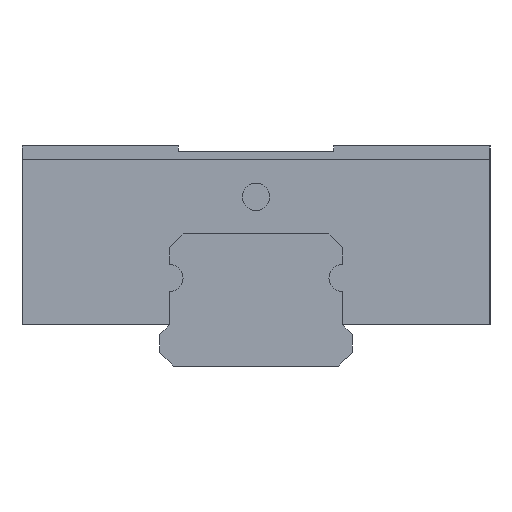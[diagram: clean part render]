
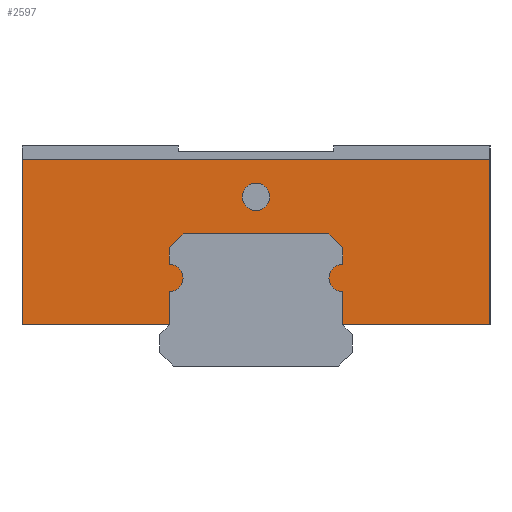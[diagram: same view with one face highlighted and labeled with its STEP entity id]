
A CAD part, left-side view. The second image highlights one B-rep face of the part: STEP entity #2597.
In plain terms, the highlighted planar face has unit normal (-1, 0, 0).
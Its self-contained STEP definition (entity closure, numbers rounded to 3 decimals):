
#1813=CARTESIAN_POINT('',(26.098,0.5,6.15));
#1814=VERTEX_POINT('',#1813);
#1815=CARTESIAN_POINT('',(26.098,0.0,6.15));
#1816=DIRECTION('',(1.0,0.0,0.0));
#1817=DIRECTION('',(0.0,-1.0,0.0));
#1818=AXIS2_PLACEMENT_3D('',#1815,#1816,#1817);
#1819=CIRCLE('',#1818,0.5);
#1820=EDGE_CURVE('',#1814,#1814,#1819,.T.);
#2086=CARTESIAN_POINT('',(26.098,8.5,7.5));
#2087=VERTEX_POINT('',#2086);
#2094=CARTESIAN_POINT('',(26.098,-8.5,7.5));
#2095=VERTEX_POINT('',#2094);
#2096=CARTESIAN_POINT('',(26.098,-8.5,7.5));
#2097=DIRECTION('',(0.0,1.0,0.0));
#2098=VECTOR('',#2097,17.0);
#2099=LINE('',#2096,#2098);
#2100=EDGE_CURVE('',#2095,#2087,#2099,.T.);
#2155=CARTESIAN_POINT('',(26.098,8.5,1.5));
#2156=VERTEX_POINT('',#2155);
#2163=CARTESIAN_POINT('',(26.098,8.5,7.5));
#2164=DIRECTION('',(0.0,0.0,-1.0));
#2165=VECTOR('',#2164,6.0);
#2166=LINE('',#2163,#2165);
#2167=EDGE_CURVE('',#2087,#2156,#2166,.T.);
#2190=CARTESIAN_POINT('',(26.098,3.15,1.5));
#2191=VERTEX_POINT('',#2190);
#2198=CARTESIAN_POINT('',(26.098,8.5,1.5));
#2199=DIRECTION('',(0.0,-1.0,0.0));
#2200=VECTOR('',#2199,5.35);
#2201=LINE('',#2198,#2200);
#2202=EDGE_CURVE('',#2156,#2191,#2201,.T.);
#2221=CARTESIAN_POINT('',(26.098,3.15,2.7));
#2222=VERTEX_POINT('',#2221);
#2229=CARTESIAN_POINT('',(26.098,3.15,1.5));
#2230=DIRECTION('',(0.0,0.0,1.0));
#2231=VECTOR('',#2230,1.2);
#2232=LINE('',#2229,#2231);
#2233=EDGE_CURVE('',#2191,#2222,#2232,.T.);
#2253=CARTESIAN_POINT('',(26.098,3.15,3.7));
#2254=VERTEX_POINT('',#2253);
#2261=CARTESIAN_POINT('',(26.098,3.15,3.2));
#2262=DIRECTION('',(-1.0,0.0,0.0));
#2263=DIRECTION('',(0.0,0.0,-1.0));
#2264=AXIS2_PLACEMENT_3D('',#2261,#2262,#2263);
#2265=CIRCLE('',#2264,0.5);
#2266=EDGE_CURVE('',#2222,#2254,#2265,.T.);
#2285=CARTESIAN_POINT('',(26.098,3.15,4.3));
#2286=VERTEX_POINT('',#2285);
#2293=CARTESIAN_POINT('',(26.098,3.15,3.7));
#2294=DIRECTION('',(0.0,0.0,1.0));
#2295=VECTOR('',#2294,0.6);
#2296=LINE('',#2293,#2295);
#2297=EDGE_CURVE('',#2254,#2286,#2296,.T.);
#2316=CARTESIAN_POINT('',(26.098,2.65,4.8));
#2317=VERTEX_POINT('',#2316);
#2324=CARTESIAN_POINT('',(26.098,3.15,4.3));
#2325=DIRECTION('',(0.0,-0.707,0.707));
#2326=VECTOR('',#2325,0.707);
#2327=LINE('',#2324,#2326);
#2328=EDGE_CURVE('',#2286,#2317,#2327,.T.);
#2347=CARTESIAN_POINT('',(26.098,-2.65,4.8));
#2348=VERTEX_POINT('',#2347);
#2355=CARTESIAN_POINT('',(26.098,2.65,4.8));
#2356=DIRECTION('',(0.0,-1.0,0.0));
#2357=VECTOR('',#2356,5.3);
#2358=LINE('',#2355,#2357);
#2359=EDGE_CURVE('',#2317,#2348,#2358,.T.);
#2378=CARTESIAN_POINT('',(26.098,-3.15,4.3));
#2379=VERTEX_POINT('',#2378);
#2386=CARTESIAN_POINT('',(26.098,-2.65,4.8));
#2387=DIRECTION('',(0.0,-0.707,-0.707));
#2388=VECTOR('',#2387,0.707);
#2389=LINE('',#2386,#2388);
#2390=EDGE_CURVE('',#2348,#2379,#2389,.T.);
#2409=CARTESIAN_POINT('',(26.098,-3.15,3.7));
#2410=VERTEX_POINT('',#2409);
#2417=CARTESIAN_POINT('',(26.098,-3.15,4.3));
#2418=DIRECTION('',(0.0,0.0,-1.0));
#2419=VECTOR('',#2418,0.6);
#2420=LINE('',#2417,#2419);
#2421=EDGE_CURVE('',#2379,#2410,#2420,.T.);
#2441=CARTESIAN_POINT('',(26.098,-3.15,2.7));
#2442=VERTEX_POINT('',#2441);
#2449=CARTESIAN_POINT('',(26.098,-3.15,3.2));
#2450=DIRECTION('',(-1.0,0.0,0.0));
#2451=DIRECTION('',(0.0,0.0,1.0));
#2452=AXIS2_PLACEMENT_3D('',#2449,#2450,#2451);
#2453=CIRCLE('',#2452,0.5);
#2454=EDGE_CURVE('',#2410,#2442,#2453,.T.);
#2473=CARTESIAN_POINT('',(26.098,-3.15,1.5));
#2474=VERTEX_POINT('',#2473);
#2481=CARTESIAN_POINT('',(26.098,-3.15,2.7));
#2482=DIRECTION('',(0.0,0.0,-1.0));
#2483=VECTOR('',#2482,1.2);
#2484=LINE('',#2481,#2483);
#2485=EDGE_CURVE('',#2442,#2474,#2484,.T.);
#2504=CARTESIAN_POINT('',(26.098,-8.5,1.5));
#2505=VERTEX_POINT('',#2504);
#2512=CARTESIAN_POINT('',(26.098,-3.15,1.5));
#2513=DIRECTION('',(0.0,-1.0,0.0));
#2514=VECTOR('',#2513,5.35);
#2515=LINE('',#2512,#2514);
#2516=EDGE_CURVE('',#2474,#2505,#2515,.T.);
#2538=CARTESIAN_POINT('',(26.098,-8.5,1.5));
#2539=DIRECTION('',(0.0,0.0,1.0));
#2540=VECTOR('',#2539,6.0);
#2541=LINE('',#2538,#2540);
#2542=EDGE_CURVE('',#2505,#2095,#2541,.T.);
#2573=CARTESIAN_POINT('',(26.098,0.,4.69));
#2574=DIRECTION('',(1.0,0.0,0.0));
#2575=DIRECTION('',(0.0,0.0,-1.0));
#2576=AXIS2_PLACEMENT_3D('',#2573,#2574,#2575);
#2577=PLANE('',#2576);
#2578=ORIENTED_EDGE('',*,*,#2542,.T.);
#2579=ORIENTED_EDGE('',*,*,#2100,.T.);
#2580=ORIENTED_EDGE('',*,*,#2167,.T.);
#2581=ORIENTED_EDGE('',*,*,#2202,.T.);
#2582=ORIENTED_EDGE('',*,*,#2233,.T.);
#2583=ORIENTED_EDGE('',*,*,#2266,.T.);
#2584=ORIENTED_EDGE('',*,*,#2297,.T.);
#2585=ORIENTED_EDGE('',*,*,#2328,.T.);
#2586=ORIENTED_EDGE('',*,*,#2359,.T.);
#2587=ORIENTED_EDGE('',*,*,#2390,.T.);
#2588=ORIENTED_EDGE('',*,*,#2421,.T.);
#2589=ORIENTED_EDGE('',*,*,#2454,.T.);
#2590=ORIENTED_EDGE('',*,*,#2485,.T.);
#2591=ORIENTED_EDGE('',*,*,#2516,.T.);
#2592=EDGE_LOOP('',(#2578,#2579,#2580,#2581,#2582,#2583,#2584,#2585,#2586,#2587,#2588,#2589,#2590,#2591));
#2593=FACE_OUTER_BOUND('',#2592,.T.);
#2594=ORIENTED_EDGE('',*,*,#1820,.T.);
#2595=EDGE_LOOP('',(#2594));
#2596=FACE_BOUND('',#2595,.T.);
#2597=ADVANCED_FACE('',(#2593,#2596),#2577,.F.);
